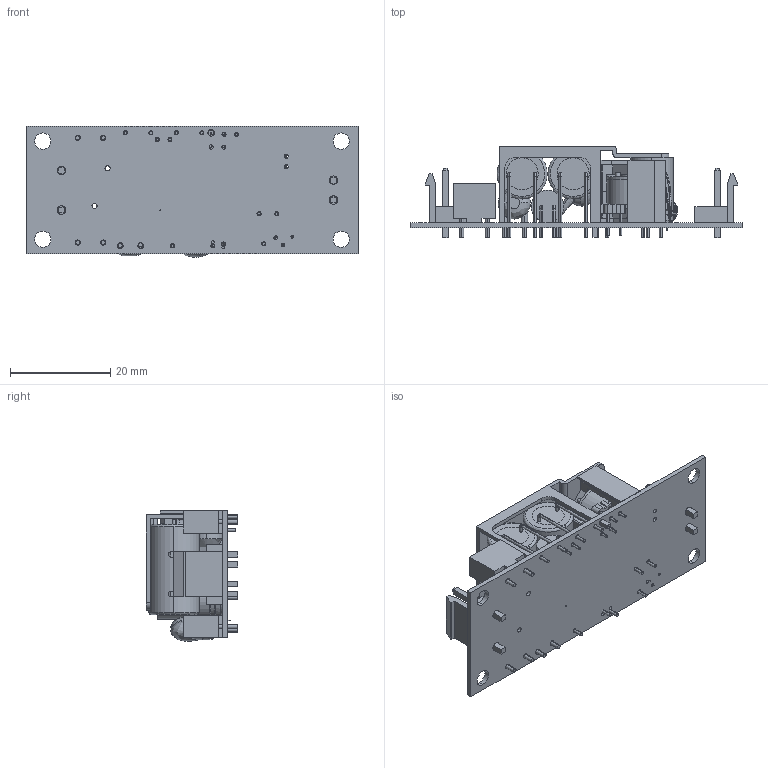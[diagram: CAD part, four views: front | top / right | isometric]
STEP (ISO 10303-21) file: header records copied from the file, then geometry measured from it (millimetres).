
FILE_DESCRIPTION (( 'STEP AP214' ), '1' );
FILE_NAME ('tpp15a-j_below10VDC.STEP', '2017-12-14T14:28:49', ( '' ), ( '' ), 'SwSTEP 2.0', 'SolidWorks 2013', '' );
FILE_SCHEMA (( 'AUTOMOTIVE_DESIGN' ));
Length unit declared in the file: millimetre
Products named in the file (1): tpp15a-j_below10VDC
Bounding box: 66.19 x 18.3 x 26.12 mm (x, y, z)
Volume: 8906.3 mm3; surface area: 12289.1 mm2
Topology: 25 solids, 25 shells, 1606 faces, 4194 edges, 2751 vertices
Faces by surface type: cylinder 609, bspline 538, plane 452, cone 7
Entity records: 79129 total; most frequent: CARTESIAN_POINT 24192, ORIENTED_EDGE 8368, DIRECTION 7138, EDGE_CURVE 4184, AXIS2_PLACEMENT_3D 2771, VERTEX_POINT 2750, EDGE_LOOP 1814, CIRCLE 1702
